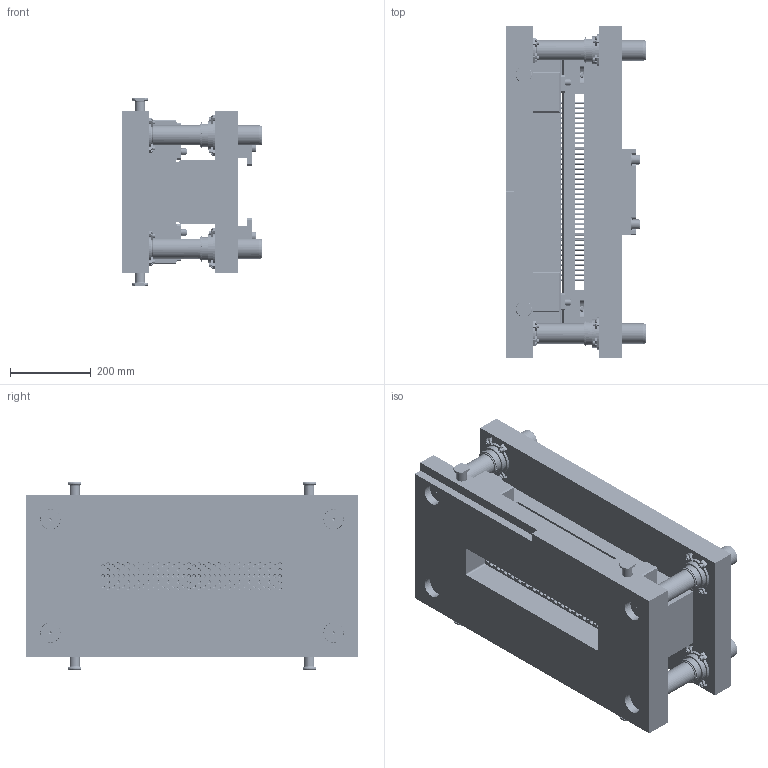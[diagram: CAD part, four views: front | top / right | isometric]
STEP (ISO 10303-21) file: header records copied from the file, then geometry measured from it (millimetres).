
FILE_DESCRIPTION(('STEP AP203'), '1');
FILE_NAME('Øòàìï âûðóáêè 450', '', ('UNSPECIFIED'), ('UNSPECIFIED'), 'C3D Converter', 'C3D Toolkit', '');
FILE_SCHEMA(('CONFIG_CONTROL_DESIGN'));
Length unit declared in the file: millimetre
Products named in the file (56): ШПО1-450.00.000 СБ; ШПО1-450.00.301; 1; 2; 3; 4; 5; 6; 7; 8; 9; ШПО1-450.00.305; ШПО1-450.00.303; ШПО1-450.00.308; УЗТСО.ШГР.00.311; ШПО1-450.00.304; ШПО2-450.00.311; ШПО2-450.00.311-01; ШПО1-450.00.302; ШВ0,7-450.00.318; ШПО1-450.00.307; ШПО1-450.00.306; ШПО1-450.00.309; ШПО2-450.00.310; ШПО1-450.00.310
Assembly tree (307 placements, depth 3):
  ШПО1-450.00.000 СБ
    ШПО1-450.00.301
    (unnamed)  x4
      1
      2
      3
      4
      5
      6
      7
      8
      9
    ШПО1-450.00.305
    ШПО1-450.00.303
    ШПО1-450.00.308  x2
    УЗТСО.ШГР.00.311  x4
    (unnamed)  x6
    ШПО1-450.00.304
    (unnamed)  x2
    (unnamed)  x2
    (unnamed)  x12
    (unnamed)  x18
    (unnamed)  x4
    (unnamed)  x4
    ШПО2-450.00.311  x2
    ШПО2-450.00.311-01  x2
    (unnamed)  x8
    ШПО1-450.00.302
    (unnamed)  x4
      1
      2
      3
      4
      5
      6
      7
      8
      9
    (unnamed)  x4
    ШВ0,7-450.00.318  x2
    (unnamed)  x4
    (unnamed)  x4
    ШПО1-450.00.307
    ШПО1-450.00.306
    (unnamed)
    (unnamed)
    (unnamed)  x10
    ШПО1-450.00.309  x2
    (unnamed)  x4
    (unnamed)  x4
    ШПО2-450.00.310  x4
    (unnamed)  x8
    (unnamed)  x8
    (unnamed)  x8
    (unnamed)  x72
    ШПО1-450.00.310  x72
Bounding box: 346 x 820 x 464 mm (x, y, z)
Volume: 56878524.7 mm3; surface area: 5021884.8 mm2
Topology: 353 solids, 353 shells, 6074 faces, 13164 edges, 8324 vertices
Faces by surface type: plane 2833, cylinder 2005, cone 816, torus 420
Full cylindrical faces by diameter (mm): 4.917 x32, 5.009 x144, 5.01 x144, 5.07 x144, 6 x176, 6.647 x8, 8 x300, 8.376 x8, 9 x4, 10 x202, 10.106 x12, 10.5 x8, 11 x144, 11.63 x4, 12 x28, 13.835 x28, 14 x44, 16 x44, 17 x4, 18 x50, 20 x18, 22 x12, 24 x24, 25 x8, 28 x26, 30 x4, 45 x4, 50 x16, 58 x12, 63 x8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
Entity records: 89326 total; most frequent: CARTESIAN_POINT 20581, DIRECTION 13008, ORIENTED_EDGE 8224, EDGE_LOOP 6262, AXIS2_PLACEMENT_3D 6092, EDGE_CURVE 4112, VERTEX_POINT 3696, FACE_OUTER_BOUND 3529
